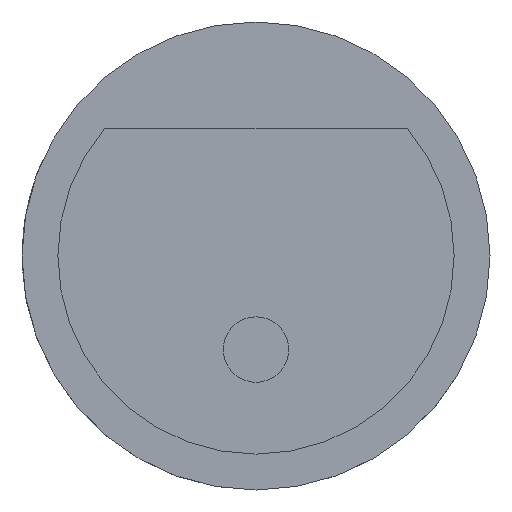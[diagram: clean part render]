
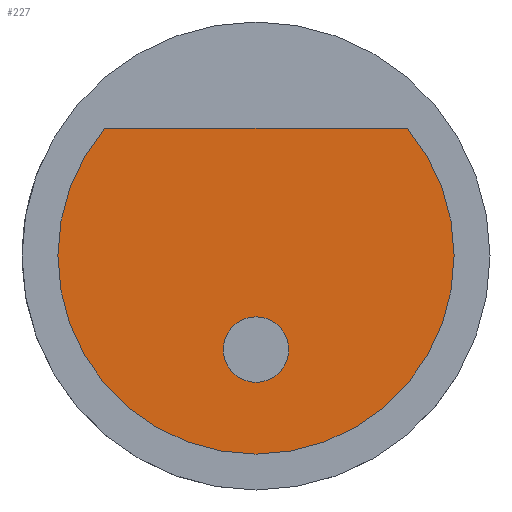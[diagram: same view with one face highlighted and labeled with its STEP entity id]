
A CAD part, front view. The second image highlights one B-rep face of the part: STEP entity #227.
In plain terms, the highlighted planar face has unit normal (0, -1, 0).
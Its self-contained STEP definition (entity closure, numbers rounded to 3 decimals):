
#3 = EDGE_LOOP ( 'NONE', ( #306, #426, #378 ) ) ;
#5 = AXIS2_PLACEMENT_3D ( 'NONE', #43, #522, #520 ) ;
#43 = CARTESIAN_POINT ( 'NONE',  ( 0., 1.5, 0. ) ) ;
#59 = CARTESIAN_POINT ( 'NONE',  ( 0., 1.5, -6. ) ) ;
#74 = DIRECTION ( 'NONE',  ( 0., -1., 0. ) ) ;
#111 = DIRECTION ( 'NONE',  ( 0., 0., -1. ) ) ;
#116 = DIRECTION ( 'NONE',  ( 0., 0., -1. ) ) ;
#127 = CARTESIAN_POINT ( 'NONE',  ( 0., 1.5, -8.1 ) ) ;
#173 = CIRCLE ( 'NONE', #420, 2.1 ) ;
#177 = CARTESIAN_POINT ( 'NONE',  ( 9.698, 1.5, 8.2 ) ) ;
#186 = CARTESIAN_POINT ( 'NONE',  ( 0., 1.5, 0. ) ) ;
#190 = AXIS2_PLACEMENT_3D ( 'NONE', #186, #355, #414 ) ;
#208 = CARTESIAN_POINT ( 'NONE',  ( -9.698, 1.5, 8.2 ) ) ;
#227 = ADVANCED_FACE ( 'NONE', ( #247, #486 ), #698, .T. ) ;
#247 = FACE_BOUND ( 'NONE', #649, .T. ) ;
#261 = CIRCLE ( 'NONE', #538, 2.1 ) ;
#264 = LINE ( 'NONE', #208, #460 ) ;
#291 = EDGE_CURVE ( 'NONE', #736, #462, #523, .T. ) ;
#306 = ORIENTED_EDGE ( 'NONE', *, *, #291, .T. ) ;
#323 = DIRECTION ( 'NONE',  ( 0., 0., -1. ) ) ;
#352 = EDGE_CURVE ( 'NONE', #553, #736, #264, .T. ) ;
#355 = DIRECTION ( 'NONE',  ( 0., -1., 0. ) ) ;
#372 = DIRECTION ( 'NONE',  ( -1., 0., 0. ) ) ;
#375 = ORIENTED_EDGE ( 'NONE', *, *, #499, .F. ) ;
#376 = VERTEX_POINT ( 'NONE', #688 ) ;
#377 = EDGE_CURVE ( 'NONE', #462, #553, #444, .T. ) ;
#378 = ORIENTED_EDGE ( 'NONE', *, *, #352, .T. ) ;
#380 = AXIS2_PLACEMENT_3D ( 'NONE', #429, #725, #323 ) ;
#414 = DIRECTION ( 'NONE',  ( 0., 0., -1. ) ) ;
#418 = CARTESIAN_POINT ( 'NONE',  ( 0., 1.5, -6. ) ) ;
#420 = AXIS2_PLACEMENT_3D ( 'NONE', #59, #476, #116 ) ;
#426 = ORIENTED_EDGE ( 'NONE', *, *, #377, .T. ) ;
#429 = CARTESIAN_POINT ( 'NONE',  ( 0., 1.5, 0. ) ) ;
#444 = CIRCLE ( 'NONE', #5, 12.7 ) ;
#455 = CARTESIAN_POINT ( 'NONE',  ( -9.698, 1.5, 8.2 ) ) ;
#460 = VECTOR ( 'NONE', #372, 1000. ) ;
#462 = VERTEX_POINT ( 'NONE', #646 ) ;
#476 = DIRECTION ( 'NONE',  ( 0., -1., 0. ) ) ;
#486 = FACE_OUTER_BOUND ( 'NONE', #3, .T. ) ;
#499 = EDGE_CURVE ( 'NONE', #376, #687, #173, .T. ) ;
#520 = DIRECTION ( 'NONE',  ( 0., 0., -1. ) ) ;
#522 = DIRECTION ( 'NONE',  ( 0., -1., 0. ) ) ;
#523 = CIRCLE ( 'NONE', #380, 12.7 ) ;
#538 = AXIS2_PLACEMENT_3D ( 'NONE', #418, #74, #111 ) ;
#553 = VERTEX_POINT ( 'NONE', #177 ) ;
#646 = CARTESIAN_POINT ( 'NONE',  ( 0., 1.5, -12.7 ) ) ;
#649 = EDGE_LOOP ( 'NONE', ( #667, #375 ) ) ;
#667 = ORIENTED_EDGE ( 'NONE', *, *, #713, .F. ) ;
#687 = VERTEX_POINT ( 'NONE', #127 ) ;
#688 = CARTESIAN_POINT ( 'NONE',  ( 0., 1.5, -3.9 ) ) ;
#698 = PLANE ( 'NONE',  #190 ) ;
#713 = EDGE_CURVE ( 'NONE', #687, #376, #261, .T. ) ;
#725 = DIRECTION ( 'NONE',  ( 0., -1., 0. ) ) ;
#736 = VERTEX_POINT ( 'NONE', #455 ) ;
